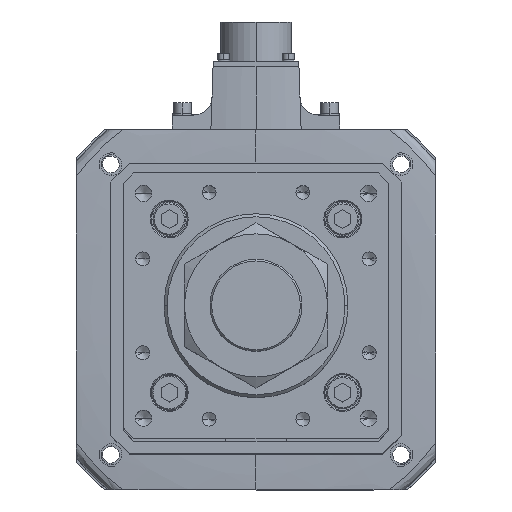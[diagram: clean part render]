
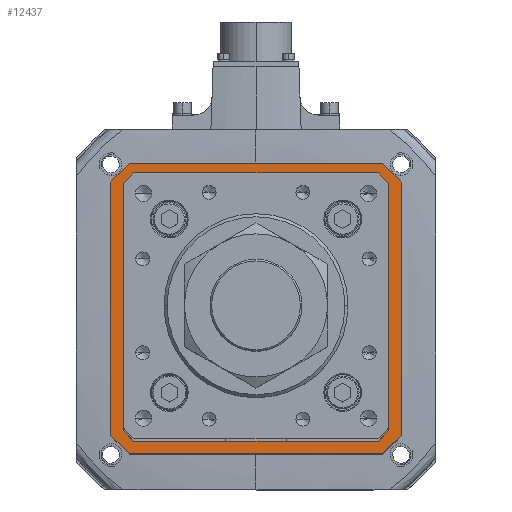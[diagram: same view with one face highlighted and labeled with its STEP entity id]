
A CAD part, top view. The second image highlights one B-rep face of the part: STEP entity #12437.
In plain terms, the highlighted planar face has unit normal (0, 0, 1).
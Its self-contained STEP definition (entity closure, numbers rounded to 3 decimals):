
#321 = ORIENTED_EDGE ( 'NONE', *, *, #4934, .T. ) ;
#501 = DIRECTION ( 'NONE',  ( -0.707, -0.707, 0. ) ) ;
#967 = FACE_BOUND ( 'NONE', #47743, .T. ) ;
#1347 = CARTESIAN_POINT ( 'NONE',  ( -62., -71., -142. ) ) ;
#1442 = ORIENTED_EDGE ( 'NONE', *, *, #52368, .T. ) ;
#1750 = DIRECTION ( 'NONE',  ( 0.707, -0.707, 0. ) ) ;
#3088 = ORIENTED_EDGE ( 'NONE', *, *, #39043, .T. ) ;
#4717 = CARTESIAN_POINT ( 'NONE',  ( 0., -63., -142. ) ) ;
#4934 = EDGE_CURVE ( 'NONE', #7935, #41793, #43534, .T. ) ;
#4996 = DIRECTION ( 'NONE',  ( 1., 0., 0. ) ) ;
#5021 = CARTESIAN_POINT ( 'NONE',  ( 63., 58.793, -142. ) ) ;
#5068 = VECTOR ( 'NONE', #17200, 1000. ) ;
#5261 = CARTESIAN_POINT ( 'NONE',  ( 62., -71., -142. ) ) ;
#5764 = EDGE_CURVE ( 'NONE', #24839, #29387, #13521, .T. ) ;
#6003 = LINE ( 'NONE', #1347, #43996 ) ;
#6010 = CARTESIAN_POINT ( 'NONE',  ( 71., -62., -142. ) ) ;
#6854 = CARTESIAN_POINT ( 'NONE',  ( 71., 62., -142. ) ) ;
#6901 = VERTEX_POINT ( 'NONE', #6010 ) ;
#7258 = CARTESIAN_POINT ( 'NONE',  ( -62., 71., -142. ) ) ;
#7432 = VECTOR ( 'NONE', #13293, 1000. ) ;
#7935 = VERTEX_POINT ( 'NONE', #30854 ) ;
#8164 = CARTESIAN_POINT ( 'NONE',  ( 63., 0., -142. ) ) ;
#8379 = CARTESIAN_POINT ( 'NONE',  ( -63., 58.793, -142. ) ) ;
#8388 = ORIENTED_EDGE ( 'NONE', *, *, #24943, .T. ) ;
#8689 = ORIENTED_EDGE ( 'NONE', *, *, #32684, .F. ) ;
#8708 = DIRECTION ( 'NONE',  ( 0., -1., 0. ) ) ;
#8916 = FACE_OUTER_BOUND ( 'NONE', #39900, .T. ) ;
#9020 = LINE ( 'NONE', #4717, #51024 ) ;
#9294 = VECTOR ( 'NONE', #42239, 1000. ) ;
#9578 = DIRECTION ( 'NONE',  ( -1., 0., 0. ) ) ;
#9876 = DIRECTION ( 'NONE',  ( 0., 0., 1. ) ) ;
#10006 = ORIENTED_EDGE ( 'NONE', *, *, #39667, .T. ) ;
#10376 = CARTESIAN_POINT ( 'NONE',  ( 60.896, 60.896, -142. ) ) ;
#10478 = EDGE_CURVE ( 'NONE', #17080, #44387, #9020, .T. ) ;
#10756 = CARTESIAN_POINT ( 'NONE',  ( -63., -58.793, -142. ) ) ;
#12437 = ADVANCED_FACE ( 'NONE', ( #967, #8916 ), #18590, .T. ) ;
#12440 = LINE ( 'NONE', #29011, #45023 ) ;
#12858 = EDGE_CURVE ( 'NONE', #6901, #16200, #35685, .T. ) ;
#13293 = DIRECTION ( 'NONE',  ( 0., 1., 0. ) ) ;
#13521 = LINE ( 'NONE', #7258, #41413 ) ;
#14139 = CARTESIAN_POINT ( 'NONE',  ( 0., 0., -142. ) ) ;
#15552 = EDGE_CURVE ( 'NONE', #44387, #32188, #32755, .T. ) ;
#15803 = VECTOR ( 'NONE', #18815, 1000. ) ;
#16200 = VERTEX_POINT ( 'NONE', #5261 ) ;
#16391 = LINE ( 'NONE', #25415, #5068 ) ;
#16724 = CARTESIAN_POINT ( 'NONE',  ( -62., -71., -142. ) ) ;
#16936 = CARTESIAN_POINT ( 'NONE',  ( -71., 62., -142. ) ) ;
#17080 = VERTEX_POINT ( 'NONE', #47207 ) ;
#17200 = DIRECTION ( 'NONE',  ( 0., -1., 0. ) ) ;
#17741 = CARTESIAN_POINT ( 'NONE',  ( -71., 62., -142. ) ) ;
#18590 = PLANE ( 'NONE',  #28246 ) ;
#18729 = CARTESIAN_POINT ( 'NONE',  ( 71., -62., -142. ) ) ;
#18815 = DIRECTION ( 'NONE',  ( 0.707, -0.707, 0. ) ) ;
#18917 = VECTOR ( 'NONE', #38691, 1000. ) ;
#19247 = LINE ( 'NONE', #16936, #9294 ) ;
#19793 = CARTESIAN_POINT ( 'NONE',  ( -62., 71., -142. ) ) ;
#20147 = LINE ( 'NONE', #10376, #54156 ) ;
#20222 = VERTEX_POINT ( 'NONE', #31207 ) ;
#21222 = VERTEX_POINT ( 'NONE', #8379 ) ;
#22316 = ORIENTED_EDGE ( 'NONE', *, *, #12858, .F. ) ;
#22910 = ORIENTED_EDGE ( 'NONE', *, *, #42031, .F. ) ;
#23173 = EDGE_CURVE ( 'NONE', #16200, #51720, #54244, .T. ) ;
#23421 = DIRECTION ( 'NONE',  ( 1., 0., 0. ) ) ;
#24018 = LINE ( 'NONE', #46204, #32634 ) ;
#24362 = VECTOR ( 'NONE', #40296, 1000. ) ;
#24839 = VERTEX_POINT ( 'NONE', #17741 ) ;
#24888 = ORIENTED_EDGE ( 'NONE', *, *, #5764, .F. ) ;
#24943 = EDGE_CURVE ( 'NONE', #32188, #21222, #42750, .T. ) ;
#25415 = CARTESIAN_POINT ( 'NONE',  ( 71., 62., -142. ) ) ;
#26076 = CARTESIAN_POINT ( 'NONE',  ( 60.896, -60.896, -142. ) ) ;
#27928 = VECTOR ( 'NONE', #8708, 1000. ) ;
#28246 = AXIS2_PLACEMENT_3D ( 'NONE', #14139, #9876, #23421 ) ;
#29011 = CARTESIAN_POINT ( 'NONE',  ( 62., 71., -142. ) ) ;
#29387 = VERTEX_POINT ( 'NONE', #19793 ) ;
#30760 = CARTESIAN_POINT ( 'NONE',  ( -58.793, -63., -142. ) ) ;
#30801 = VECTOR ( 'NONE', #4996, 1000. ) ;
#30854 = CARTESIAN_POINT ( 'NONE',  ( -58.793, 63., -142. ) ) ;
#31207 = CARTESIAN_POINT ( 'NONE',  ( -71., -62., -142. ) ) ;
#31303 = CARTESIAN_POINT ( 'NONE',  ( 71., 62., -142. ) ) ;
#31459 = CARTESIAN_POINT ( 'NONE',  ( 58.793, 63., -142. ) ) ;
#32188 = VERTEX_POINT ( 'NONE', #10756 ) ;
#32476 = LINE ( 'NONE', #31303, #15803 ) ;
#32634 = VECTOR ( 'NONE', #42282, 1000. ) ;
#32684 = EDGE_CURVE ( 'NONE', #51720, #20222, #6003, .T. ) ;
#32755 = LINE ( 'NONE', #37522, #38731 ) ;
#32963 = VERTEX_POINT ( 'NONE', #43402 ) ;
#33386 = EDGE_CURVE ( 'NONE', #50328, #48123, #38578, .T. ) ;
#35685 = LINE ( 'NONE', #18729, #24362 ) ;
#36615 = ORIENTED_EDGE ( 'NONE', *, *, #10478, .T. ) ;
#37522 = CARTESIAN_POINT ( 'NONE',  ( -60.896, -60.896, -142. ) ) ;
#38185 = ORIENTED_EDGE ( 'NONE', *, *, #40853, .F. ) ;
#38578 = LINE ( 'NONE', #8164, #27928 ) ;
#38691 = DIRECTION ( 'NONE',  ( -1., 0., 0. ) ) ;
#38731 = VECTOR ( 'NONE', #46275, 1000. ) ;
#39043 = EDGE_CURVE ( 'NONE', #21222, #7935, #24018, .T. ) ;
#39119 = ORIENTED_EDGE ( 'NONE', *, *, #39578, .F. ) ;
#39262 = VECTOR ( 'NONE', #501, 1000. ) ;
#39578 = EDGE_CURVE ( 'NONE', #20222, #24839, #19247, .T. ) ;
#39667 = EDGE_CURVE ( 'NONE', #48123, #17080, #50586, .T. ) ;
#39900 = EDGE_LOOP ( 'NONE', ( #22910, #24888, #39119, #8689, #52347, #22316, #43178, #38185 ) ) ;
#40296 = DIRECTION ( 'NONE',  ( -0.707, -0.707, 0. ) ) ;
#40853 = EDGE_CURVE ( 'NONE', #32963, #41959, #32476, .T. ) ;
#41413 = VECTOR ( 'NONE', #45960, 1000. ) ;
#41630 = DIRECTION ( 'NONE',  ( 1., 0., 0. ) ) ;
#41793 = VERTEX_POINT ( 'NONE', #31459 ) ;
#41959 = VERTEX_POINT ( 'NONE', #6854 ) ;
#42031 = EDGE_CURVE ( 'NONE', #29387, #32963, #12440, .T. ) ;
#42239 = DIRECTION ( 'NONE',  ( 0., 1., 0. ) ) ;
#42282 = DIRECTION ( 'NONE',  ( 0.707, 0.707, 0. ) ) ;
#42587 = EDGE_CURVE ( 'NONE', #41959, #6901, #16391, .T. ) ;
#42750 = LINE ( 'NONE', #51849, #7432 ) ;
#43178 = ORIENTED_EDGE ( 'NONE', *, *, #42587, .F. ) ;
#43402 = CARTESIAN_POINT ( 'NONE',  ( 62., 71., -142. ) ) ;
#43534 = LINE ( 'NONE', #47092, #30801 ) ;
#43661 = DIRECTION ( 'NONE',  ( -0.707, 0.707, 0. ) ) ;
#43996 = VECTOR ( 'NONE', #43661, 1000. ) ;
#44387 = VERTEX_POINT ( 'NONE', #30760 ) ;
#45023 = VECTOR ( 'NONE', #41630, 1000. ) ;
#45612 = ORIENTED_EDGE ( 'NONE', *, *, #15552, .T. ) ;
#45656 = CARTESIAN_POINT ( 'NONE',  ( 63., -58.793, -142. ) ) ;
#45960 = DIRECTION ( 'NONE',  ( 0.707, 0.707, 0. ) ) ;
#46204 = CARTESIAN_POINT ( 'NONE',  ( -60.896, 60.896, -142. ) ) ;
#46275 = DIRECTION ( 'NONE',  ( -0.707, 0.707, 0. ) ) ;
#47073 = CARTESIAN_POINT ( 'NONE',  ( 62., -71., -142. ) ) ;
#47092 = CARTESIAN_POINT ( 'NONE',  ( 0., 63., -142. ) ) ;
#47207 = CARTESIAN_POINT ( 'NONE',  ( 58.793, -63., -142. ) ) ;
#47743 = EDGE_LOOP ( 'NONE', ( #52939, #10006, #36615, #45612, #8388, #3088, #321, #1442 ) ) ;
#48123 = VERTEX_POINT ( 'NONE', #45656 ) ;
#50328 = VERTEX_POINT ( 'NONE', #5021 ) ;
#50586 = LINE ( 'NONE', #26076, #39262 ) ;
#51024 = VECTOR ( 'NONE', #9578, 1000. ) ;
#51720 = VERTEX_POINT ( 'NONE', #16724 ) ;
#51849 = CARTESIAN_POINT ( 'NONE',  ( -63., 0., -142. ) ) ;
#52347 = ORIENTED_EDGE ( 'NONE', *, *, #23173, .F. ) ;
#52368 = EDGE_CURVE ( 'NONE', #41793, #50328, #20147, .T. ) ;
#52939 = ORIENTED_EDGE ( 'NONE', *, *, #33386, .T. ) ;
#54156 = VECTOR ( 'NONE', #1750, 1000. ) ;
#54244 = LINE ( 'NONE', #47073, #18917 ) ;
